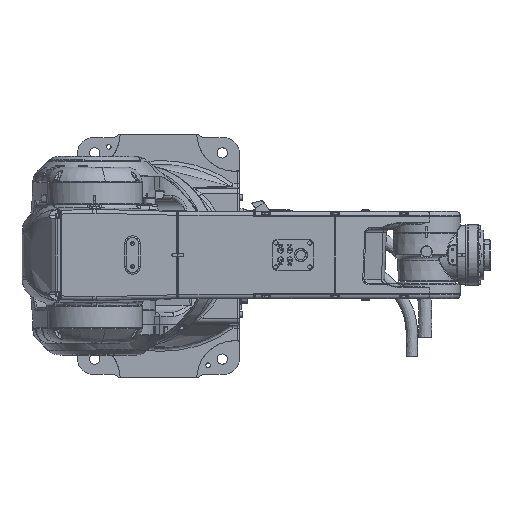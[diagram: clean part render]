
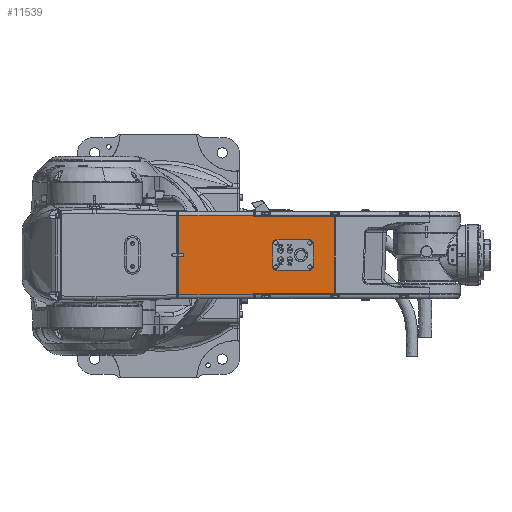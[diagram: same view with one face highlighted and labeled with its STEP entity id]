
A CAD part, top view. The second image highlights one B-rep face of the part: STEP entity #11539.
In plain terms, the highlighted planar face has unit normal (0, 0, 1).
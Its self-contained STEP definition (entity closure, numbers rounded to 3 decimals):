
#4904=LINE('',#87292,#7214);
#4949=LINE('',#87545,#7259);
#4950=LINE('',#87548,#7260);
#4951=LINE('',#87550,#7261);
#4952=LINE('',#87551,#7262);
#4953=LINE('',#87553,#7263);
#4954=LINE('',#87555,#7264);
#4955=LINE('',#87557,#7265);
#4956=LINE('',#87561,#7266);
#4957=LINE('',#87563,#7267);
#4958=LINE('',#87565,#7268);
#4959=LINE('',#87566,#7269);
#4960=LINE('',#87571,#7270);
#4961=LINE('',#87575,#7271);
#4962=LINE('',#87579,#7272);
#7214=VECTOR('',#55237,1.);
#7259=VECTOR('',#55344,1.);
#7260=VECTOR('',#55345,1.);
#7261=VECTOR('',#55346,1.);
#7262=VECTOR('',#55347,1.);
#7263=VECTOR('',#55348,1.);
#7264=VECTOR('',#55349,1.);
#7265=VECTOR('',#55350,1.);
#7266=VECTOR('',#55353,1.);
#7267=VECTOR('',#55354,1.);
#7268=VECTOR('',#55355,1.);
#7269=VECTOR('',#55356,1.);
#7270=VECTOR('',#55359,1.);
#7271=VECTOR('',#55362,1.);
#7272=VECTOR('',#55365,1.);
#10238=FACE_BOUND('',#18340,.T.);
#10239=FACE_BOUND('',#18341,.T.);
#11539=ADVANCED_FACE('',(#10238,#10239),#14226,.T.);
#14226=PLANE('',#49511);
#18340=EDGE_LOOP('',(#23679,#23680,#23681,#23682,#23683,#23684,#23685,#23686,
#23687,#23688,#23689,#23690));
#18341=EDGE_LOOP('',(#23691,#23692,#23693,#23694,#23695,#23696,#23697,#23698));
#23679=ORIENTED_EDGE('',*,*,#40789,.F.);
#23680=ORIENTED_EDGE('',*,*,#40790,.F.);
#23681=ORIENTED_EDGE('',*,*,#40791,.T.);
#23682=ORIENTED_EDGE('',*,*,#40712,.F.);
#23683=ORIENTED_EDGE('',*,*,#40792,.F.);
#23684=ORIENTED_EDGE('',*,*,#40793,.T.);
#23685=ORIENTED_EDGE('',*,*,#40794,.T.);
#23686=ORIENTED_EDGE('',*,*,#40795,.T.);
#23687=ORIENTED_EDGE('',*,*,#40796,.T.);
#23688=ORIENTED_EDGE('',*,*,#40797,.T.);
#23689=ORIENTED_EDGE('',*,*,#40798,.T.);
#23690=ORIENTED_EDGE('',*,*,#40799,.T.);
#23691=ORIENTED_EDGE('',*,*,#40800,.F.);
#23692=ORIENTED_EDGE('',*,*,#40801,.T.);
#23693=ORIENTED_EDGE('',*,*,#40802,.F.);
#23694=ORIENTED_EDGE('',*,*,#40803,.T.);
#23695=ORIENTED_EDGE('',*,*,#40804,.F.);
#23696=ORIENTED_EDGE('',*,*,#40805,.T.);
#23697=ORIENTED_EDGE('',*,*,#40806,.F.);
#23698=ORIENTED_EDGE('',*,*,#40807,.T.);
#35949=VERTEX_POINT('',#87291);
#35950=VERTEX_POINT('',#87293);
#36019=VERTEX_POINT('',#87546);
#36020=VERTEX_POINT('',#87547);
#36021=VERTEX_POINT('',#87549);
#36022=VERTEX_POINT('',#87552);
#36023=VERTEX_POINT('',#87554);
#36024=VERTEX_POINT('',#87556);
#36025=VERTEX_POINT('',#87558);
#36026=VERTEX_POINT('',#87560);
#36027=VERTEX_POINT('',#87562);
#36028=VERTEX_POINT('',#87564);
#36029=VERTEX_POINT('',#87567);
#36030=VERTEX_POINT('',#87568);
#36031=VERTEX_POINT('',#87570);
#36032=VERTEX_POINT('',#87572);
#36033=VERTEX_POINT('',#87574);
#36034=VERTEX_POINT('',#87576);
#36035=VERTEX_POINT('',#87578);
#36036=VERTEX_POINT('',#87580);
#40712=EDGE_CURVE('',#35949,#35950,#4904,.T.);
#40789=EDGE_CURVE('',#36019,#36020,#4949,.T.);
#40790=EDGE_CURVE('',#36021,#36019,#4950,.T.);
#40791=EDGE_CURVE('',#36021,#35950,#4951,.T.);
#40792=EDGE_CURVE('',#36022,#35949,#4952,.T.);
#40793=EDGE_CURVE('',#36022,#36023,#4953,.T.);
#40794=EDGE_CURVE('',#36023,#36024,#4954,.T.);
#40795=EDGE_CURVE('',#36024,#36025,#4955,.T.);
#40796=EDGE_CURVE('',#36025,#36026,#46836,.T.);
#40797=EDGE_CURVE('',#36026,#36027,#4956,.T.);
#40798=EDGE_CURVE('',#36027,#36028,#4957,.T.);
#40799=EDGE_CURVE('',#36028,#36020,#4958,.T.);
#40800=EDGE_CURVE('',#36029,#36030,#4959,.T.);
#40801=EDGE_CURVE('',#36029,#36031,#46837,.T.);
#40802=EDGE_CURVE('',#36032,#36031,#4960,.T.);
#40803=EDGE_CURVE('',#36032,#36033,#46838,.T.);
#40804=EDGE_CURVE('',#36034,#36033,#4961,.T.);
#40805=EDGE_CURVE('',#36034,#36035,#46839,.T.);
#40806=EDGE_CURVE('',#36036,#36035,#4962,.T.);
#40807=EDGE_CURVE('',#36036,#36030,#46840,.T.);
#46836=CIRCLE('',#49506,1.7);
#46837=CIRCLE('',#49507,4.);
#46838=CIRCLE('',#49508,4.);
#46839=CIRCLE('',#49509,4.);
#46840=CIRCLE('',#49510,4.);
#49506=AXIS2_PLACEMENT_3D('',#87559,#55351,#55352);
#49507=AXIS2_PLACEMENT_3D('',#87569,#55357,#55358);
#49508=AXIS2_PLACEMENT_3D('',#87573,#55360,#55361);
#49509=AXIS2_PLACEMENT_3D('',#87577,#55363,#55364);
#49510=AXIS2_PLACEMENT_3D('',#87581,#55366,#55367);
#49511=AXIS2_PLACEMENT_3D('',#87582,#55368,#55369);
#55237=DIRECTION('',(1.,0.,0.));
#55344=DIRECTION('',(0.,-1.,0.));
#55345=DIRECTION('',(-1.,0.,0.));
#55346=DIRECTION('',(0.,1.,0.));
#55347=DIRECTION('',(0.,-1.,0.));
#55348=DIRECTION('',(-1.,0.,0.));
#55349=DIRECTION('',(0.,-1.,0.));
#55350=DIRECTION('',(1.,0.,0.));
#55351=DIRECTION('',(0.,0.,-1.));
#55352=DIRECTION('',(1.,0.,0.));
#55353=DIRECTION('',(-1.,0.,0.));
#55354=DIRECTION('',(0.,-1.,0.));
#55355=DIRECTION('',(1.,0.,0.));
#55356=DIRECTION('',(1.,0.,0.));
#55357=DIRECTION('',(0.,0.,-1.));
#55358=DIRECTION('',(1.,0.,0.));
#55359=DIRECTION('',(0.,-1.,0.));
#55360=DIRECTION('',(0.,0.,-1.));
#55361=DIRECTION('',(1.,0.,0.));
#55362=DIRECTION('',(-1.,0.,0.));
#55363=DIRECTION('',(0.,0.,-1.));
#55364=DIRECTION('',(1.,0.,0.));
#55365=DIRECTION('',(0.,1.,0.));
#55366=DIRECTION('',(0.,0.,-1.));
#55367=DIRECTION('',(1.,0.,0.));
#55368=DIRECTION('',(0.,0.,1.));
#55369=DIRECTION('',(-1.,0.,0.));
#87291=CARTESIAN_POINT('',(208.5,50.,88.));
#87292=CARTESIAN_POINT('',(209.5,50.,88.));
#87293=CARTESIAN_POINT('',(314.815,50.,88.));
#87545=CARTESIAN_POINT('',(208.5,-50.,88.));
#87546=CARTESIAN_POINT('',(208.5,-50.,88.));
#87547=CARTESIAN_POINT('',(208.5,-52.,88.));
#87548=CARTESIAN_POINT('',(209.5,-50.,88.));
#87549=CARTESIAN_POINT('',(314.815,-50.,88.));
#87550=CARTESIAN_POINT('',(314.815,-57.,88.));
#87551=CARTESIAN_POINT('',(208.5,57.,88.));
#87552=CARTESIAN_POINT('',(208.5,52.,88.));
#87553=CARTESIAN_POINT('',(209.5,52.,88.));
#87554=CARTESIAN_POINT('',(110.5,52.,88.));
#87555=CARTESIAN_POINT('',(110.5,-57.,88.));
#87556=CARTESIAN_POINT('',(110.5,1.7,88.));
#87557=CARTESIAN_POINT('',(209.5,1.7,88.));
#87558=CARTESIAN_POINT('',(115.5,1.7,88.));
#87559=CARTESIAN_POINT('',(115.5,0.,88.));
#87560=CARTESIAN_POINT('',(115.5,-1.7,88.));
#87561=CARTESIAN_POINT('',(110.5,-1.7,88.));
#87562=CARTESIAN_POINT('',(110.5,-1.7,88.));
#87563=CARTESIAN_POINT('',(110.5,-57.,88.));
#87564=CARTESIAN_POINT('',(110.5,-52.,88.));
#87565=CARTESIAN_POINT('',(208.5,-52.,88.));
#87566=CARTESIAN_POINT('',(209.5,-19.75,88.));
#87567=CARTESIAN_POINT('',(237.75,-19.75,88.));
#87568=CARTESIAN_POINT('',(282.25,-19.75,88.));
#87569=CARTESIAN_POINT('',(237.75,-15.75,88.));
#87570=CARTESIAN_POINT('',(233.75,-15.75,88.));
#87571=CARTESIAN_POINT('',(233.75,-57.,88.));
#87572=CARTESIAN_POINT('',(233.75,15.75,88.));
#87573=CARTESIAN_POINT('',(237.75,15.75,88.));
#87574=CARTESIAN_POINT('',(237.75,19.75,88.));
#87575=CARTESIAN_POINT('',(209.5,19.75,88.));
#87576=CARTESIAN_POINT('',(282.25,19.75,88.));
#87577=CARTESIAN_POINT('',(282.25,15.75,88.));
#87578=CARTESIAN_POINT('',(286.25,15.75,88.));
#87579=CARTESIAN_POINT('',(286.25,-57.,88.));
#87580=CARTESIAN_POINT('',(286.25,-15.75,88.));
#87581=CARTESIAN_POINT('',(282.25,-15.75,88.));
#87582=CARTESIAN_POINT('',(209.5,-57.,88.));
